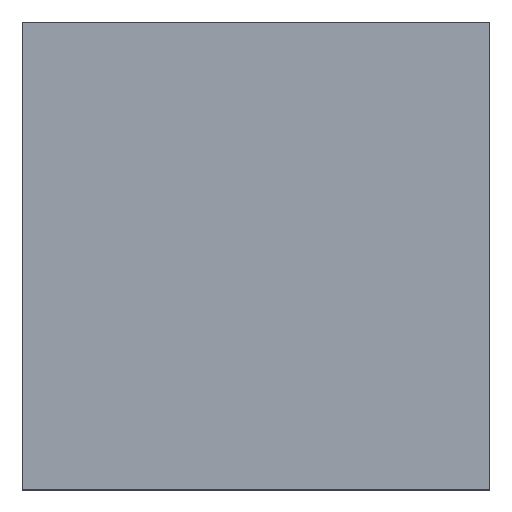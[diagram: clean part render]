
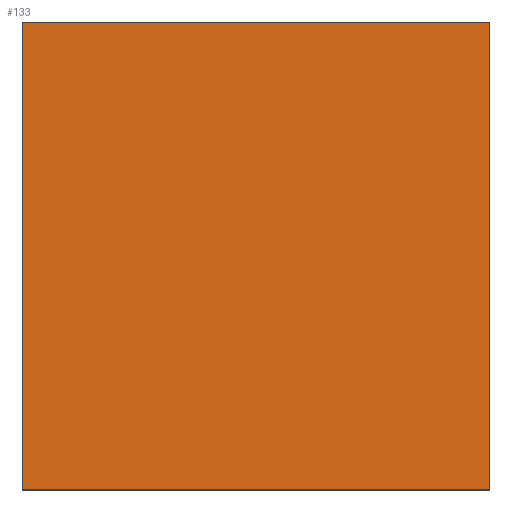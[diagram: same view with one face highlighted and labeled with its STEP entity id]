
A CAD part, top view. The second image highlights one B-rep face of the part: STEP entity #133.
In plain terms, the highlighted planar face has unit normal (0, 0, 1).
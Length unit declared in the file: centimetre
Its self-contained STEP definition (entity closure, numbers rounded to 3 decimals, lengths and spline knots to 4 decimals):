
#8 = EDGE_CURVE ( 'NONE', #40, #547, #136, .T. ) ;
#12 = ORIENTED_EDGE ( 'NONE', *, *, #8, .T. ) ;
#40 = VERTEX_POINT ( 'NONE', #375 ) ;
#82 = LINE ( 'NONE', #963, #119 ) ;
#85 = FACE_OUTER_BOUND ( 'NONE', #489, .T. ) ;
#119 = VECTOR ( 'NONE', #667, 100. ) ;
#121 = CARTESIAN_POINT ( 'NONE',  ( 0., 0., 1000. ) ) ;
#133 = ADVANCED_FACE ( 'NONE', ( #85 ), #795, .T. ) ;
#136 = LINE ( 'NONE', #384, #862 ) ;
#146 = ORIENTED_EDGE ( 'NONE', *, *, #734, .T. ) ;
#200 = AXIS2_PLACEMENT_3D ( 'NONE', #481, #1040, #735 ) ;
#212 = LINE ( 'NONE', #377, #487 ) ;
#217 = CARTESIAN_POINT ( 'NONE',  ( 1000., 1000., 1000. ) ) ;
#220 = VERTEX_POINT ( 'NONE', #217 ) ;
#247 = ORIENTED_EDGE ( 'NONE', *, *, #340, .T. ) ;
#270 = VECTOR ( 'NONE', #540, 100. ) ;
#340 = EDGE_CURVE ( 'NONE', #220, #40, #82, .T. ) ;
#375 = CARTESIAN_POINT ( 'NONE',  ( 0., 1000., 1000. ) ) ;
#377 = CARTESIAN_POINT ( 'NONE',  ( 1000., 1000., 1000. ) ) ;
#382 = LINE ( 'NONE', #434, #270 ) ;
#384 = CARTESIAN_POINT ( 'NONE',  ( 0., 1000., 1000. ) ) ;
#434 = CARTESIAN_POINT ( 'NONE',  ( 0., 0., 1000. ) ) ;
#481 = CARTESIAN_POINT ( 'NONE',  ( 0., 0., 1000. ) ) ;
#487 = VECTOR ( 'NONE', #911, 100. ) ;
#489 = EDGE_LOOP ( 'NONE', ( #12, #146, #781, #247 ) ) ;
#540 = DIRECTION ( 'NONE',  ( 1., 0., 0. ) ) ;
#547 = VERTEX_POINT ( 'NONE', #121 ) ;
#658 = VERTEX_POINT ( 'NONE', #927 ) ;
#667 = DIRECTION ( 'NONE',  ( -1., 0., 0. ) ) ;
#709 = DIRECTION ( 'NONE',  ( 0., -1., 0. ) ) ;
#734 = EDGE_CURVE ( 'NONE', #547, #658, #382, .T. ) ;
#735 = DIRECTION ( 'NONE',  ( 1., 0., 0. ) ) ;
#781 = ORIENTED_EDGE ( 'NONE', *, *, #801, .T. ) ;
#795 = PLANE ( 'NONE',  #200 ) ;
#801 = EDGE_CURVE ( 'NONE', #658, #220, #212, .T. ) ;
#862 = VECTOR ( 'NONE', #709, 100. ) ;
#911 = DIRECTION ( 'NONE',  ( 0., 1., 0. ) ) ;
#927 = CARTESIAN_POINT ( 'NONE',  ( 1000., 0., 1000. ) ) ;
#963 = CARTESIAN_POINT ( 'NONE',  ( 0., 1000., 1000. ) ) ;
#1040 = DIRECTION ( 'NONE',  ( 0., 0., 1. ) ) ;
